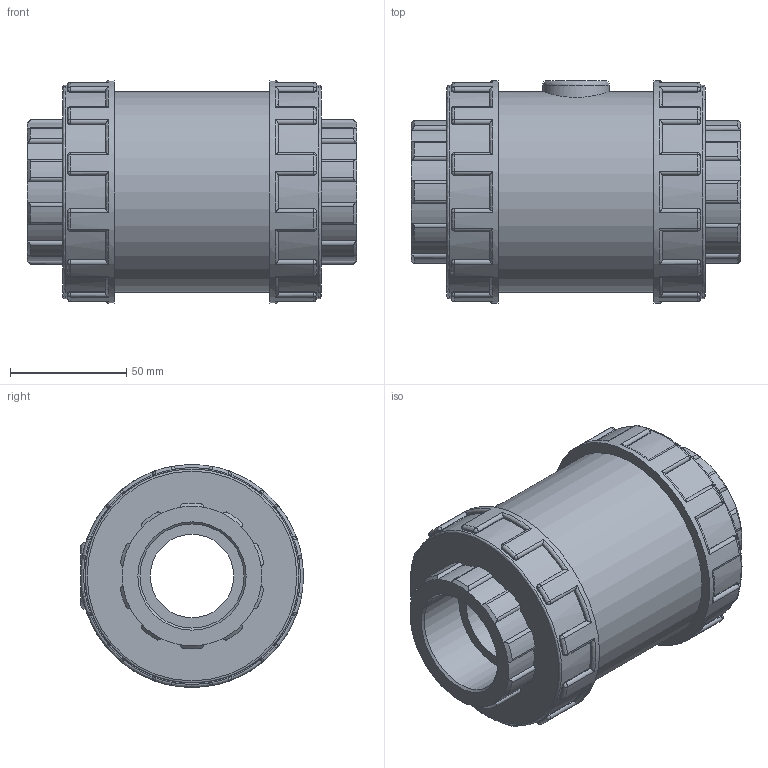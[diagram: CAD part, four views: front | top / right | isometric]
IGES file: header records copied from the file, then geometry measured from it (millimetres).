
Global section: file name: 116310015.ipt; native system: Autodesk Inventor 2015; preprocessor: unknown; author: KIM; date: 20171207.170629; units: millimetre
Bounding box: 142 x 96 x 96 mm (x, y, z)
Volume: 624377.3 mm3; surface area: 70725.8 mm2
Topology: 1 solids, 1 shells, 411 faces, 1033 edges, 630 vertices
Faces by surface type: cylinder 182, plane 105, revolution 56, sphere 48, cone 20
Full cylindrical faces by diameter (mm): 28.8 x1, 86.4 x1, 92.16 x2, 96 x2
